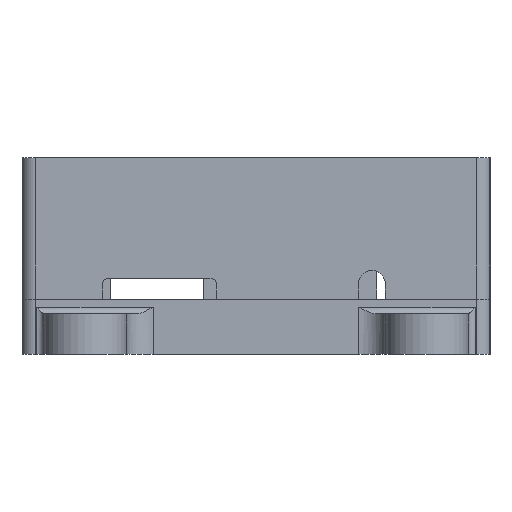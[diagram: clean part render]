
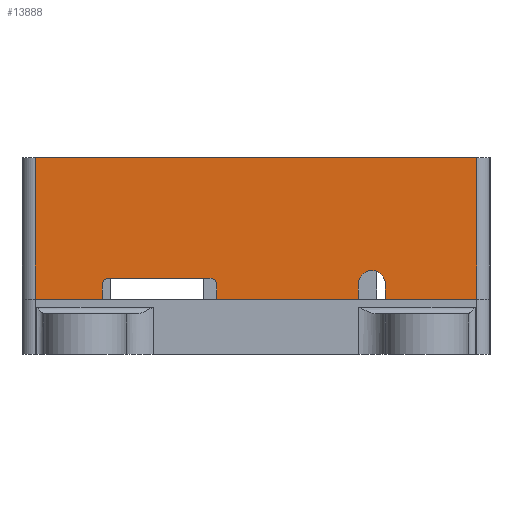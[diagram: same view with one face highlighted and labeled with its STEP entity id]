
A CAD part, left-side view. The second image highlights one B-rep face of the part: STEP entity #13888.
In plain terms, the highlighted planar face has unit normal (-1, 0, 0).
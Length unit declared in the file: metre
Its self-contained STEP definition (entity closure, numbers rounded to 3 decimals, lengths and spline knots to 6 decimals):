
#465=PLANE('',#15087);
#1423=LINE('',#21389,#2910);
#1426=LINE('',#21402,#2913);
#1825=LINE('',#22801,#3312);
#1830=LINE('',#22814,#3317);
#1831=LINE('',#22816,#3318);
#1838=LINE('',#22835,#3325);
#1841=LINE('',#22841,#3328);
#1919=LINE('',#23059,#3406);
#1920=LINE('',#23060,#3407);
#1921=LINE('',#23061,#3408);
#1922=LINE('',#23062,#3409);
#2910=VECTOR('',#17169,1.);
#2913=VECTOR('',#17180,1.);
#3312=VECTOR('',#18627,1.);
#3317=VECTOR('',#18640,1.);
#3318=VECTOR('',#18643,1.);
#3325=VECTOR('',#18658,1.);
#3328=VECTOR('',#18663,1.);
#3406=VECTOR('',#18849,1.);
#3407=VECTOR('',#18850,1.);
#3408=VECTOR('',#18851,1.);
#3409=VECTOR('',#18852,1.);
#6581=ORIENTED_EDGE('',*,*,#9395,.F.);
#6582=ORIENTED_EDGE('',*,*,#8578,.T.);
#6583=ORIENTED_EDGE('',*,*,#9396,.T.);
#6584=ORIENTED_EDGE('',*,*,#9281,.T.);
#6585=ORIENTED_EDGE('',*,*,#9270,.F.);
#6586=ORIENTED_EDGE('',*,*,#9273,.T.);
#6587=ORIENTED_EDGE('',*,*,#9277,.F.);
#6588=ORIENTED_EDGE('',*,*,#9280,.F.);
#6589=ORIENTED_EDGE('',*,*,#9397,.T.);
#6590=ORIENTED_EDGE('',*,*,#9293,.T.);
#6591=ORIENTED_EDGE('',*,*,#9287,.T.);
#6592=ORIENTED_EDGE('',*,*,#9290,.T.);
#6593=ORIENTED_EDGE('',*,*,#9398,.T.);
#6594=ORIENTED_EDGE('',*,*,#8572,.F.);
#8572=EDGE_CURVE('',#10211,#10213,#1423,.T.);
#8578=EDGE_CURVE('',#10216,#10218,#1426,.T.);
#9270=EDGE_CURVE('',#10691,#10692,#11254,.T.);
#9273=EDGE_CURVE('',#10691,#10694,#1825,.T.);
#9277=EDGE_CURVE('',#10696,#10694,#11256,.T.);
#9280=EDGE_CURVE('',#10698,#10696,#1830,.T.);
#9281=EDGE_CURVE('',#10699,#10692,#1831,.T.);
#9287=EDGE_CURVE('',#10701,#10704,#11258,.T.);
#9290=EDGE_CURVE('',#10704,#10706,#1838,.T.);
#9293=EDGE_CURVE('',#10707,#10701,#1841,.T.);
#9395=EDGE_CURVE('',#10216,#10211,#1919,.T.);
#9396=EDGE_CURVE('',#10218,#10699,#1920,.T.);
#9397=EDGE_CURVE('',#10698,#10707,#1921,.T.);
#9398=EDGE_CURVE('',#10706,#10213,#1922,.T.);
#10211=VERTEX_POINT('',#21387);
#10213=VERTEX_POINT('',#21390);
#10216=VERTEX_POINT('',#21397);
#10218=VERTEX_POINT('',#21401);
#10691=VERTEX_POINT('',#22793);
#10692=VERTEX_POINT('',#22795);
#10694=VERTEX_POINT('',#22800);
#10696=VERTEX_POINT('',#22807);
#10698=VERTEX_POINT('',#22813);
#10699=VERTEX_POINT('',#22817);
#10701=VERTEX_POINT('',#22823);
#10704=VERTEX_POINT('',#22828);
#10706=VERTEX_POINT('',#22834);
#10707=VERTEX_POINT('',#22838);
#11254=CIRCLE('',#15022,0.001);
#11256=CIRCLE('',#15026,0.001);
#11258=CIRCLE('',#15031,0.002);
#12010=EDGE_LOOP('',(#6581,#6582,#6583,#6584,#6585,#6586,#6587,#6588,#6589,
#6590,#6591,#6592,#6593,#6594));
#12843=FACE_BOUND('',#12010,.T.);
#13888=ADVANCED_FACE('',(#12843),#465,.F.);
#15022=AXIS2_PLACEMENT_3D('',#22794,#18621,#18622);
#15026=AXIS2_PLACEMENT_3D('',#22808,#18634,#18635);
#15031=AXIS2_PLACEMENT_3D('',#22829,#18652,#18653);
#15087=AXIS2_PLACEMENT_3D('',#23058,#18847,#18848);
#17169=DIRECTION('',(0.,0.,-1.));
#17180=DIRECTION('',(0.,0.,-1.));
#18621=DIRECTION('',(-1.,0.,0.));
#18622=DIRECTION('',(0.,-1.,0.));
#18627=DIRECTION('',(0.,-1.,0.));
#18634=DIRECTION('',(-1.,0.,0.));
#18635=DIRECTION('',(0.,-1.,0.));
#18640=DIRECTION('',(0.,0.,1.));
#18643=DIRECTION('',(0.,0.,1.));
#18652=DIRECTION('',(1.,0.,0.));
#18653=DIRECTION('',(0.,1.,0.));
#18658=DIRECTION('',(0.,0.,-1.));
#18663=DIRECTION('',(0.,0.,1.));
#18847=DIRECTION('',(1.,0.,0.));
#18848=DIRECTION('',(0.,1.,0.));
#18849=DIRECTION('',(0.,-1.,0.));
#18850=DIRECTION('',(0.,-1.,0.));
#18851=DIRECTION('',(0.,-1.,0.));
#18852=DIRECTION('',(0.,-1.,0.));
#21387=CARTESIAN_POINT('',(-0.0023,-0.0003,0.021));
#21389=CARTESIAN_POINT('',(-0.0023,-0.0003,0.019002));
#21390=CARTESIAN_POINT('',(-0.0023,-0.0003,0.));
#21397=CARTESIAN_POINT('',(-0.0023,0.0652,0.021));
#21401=CARTESIAN_POINT('',(-0.0023,0.0652,0.));
#21402=CARTESIAN_POINT('',(-0.0023,0.0652,0.));
#22793=CARTESIAN_POINT('',(-0.0023,0.0543,0.0031));
#22794=CARTESIAN_POINT('',(-0.0023,0.0543,0.0021));
#22795=CARTESIAN_POINT('',(-0.0023,0.0553,0.0021));
#22800=CARTESIAN_POINT('',(-0.0023,0.0393,0.0031));
#22801=CARTESIAN_POINT('',(-0.0023,0.0468,0.0031));
#22807=CARTESIAN_POINT('',(-0.0023,0.0383,0.0021));
#22808=CARTESIAN_POINT('',(-0.0023,0.0393,0.0021));
#22813=CARTESIAN_POINT('',(-0.0023,0.0383,0.));
#22814=CARTESIAN_POINT('',(-0.0023,0.0383,0.00105));
#22816=CARTESIAN_POINT('',(-0.0023,0.0553,0.00105));
#22817=CARTESIAN_POINT('',(-0.0023,0.0553,0.));
#22823=CARTESIAN_POINT('',(-0.0023,0.01725,0.00225));
#22828=CARTESIAN_POINT('',(-0.0023,0.01325,0.00225));
#22829=CARTESIAN_POINT('',(-0.0023,0.01525,0.00225));
#22834=CARTESIAN_POINT('',(-0.0023,0.01325,0.));
#22835=CARTESIAN_POINT('',(-0.0023,0.01325,0.019002));
#22838=CARTESIAN_POINT('',(-0.0023,0.01725,0.));
#22841=CARTESIAN_POINT('',(-0.0023,0.01725,0.019002));
#23058=CARTESIAN_POINT('',(-0.0023,-0.0003,0.));
#23059=CARTESIAN_POINT('',(-0.0023,0.03245,0.021));
#23060=CARTESIAN_POINT('',(-0.0023,0.03245,0.));
#23061=CARTESIAN_POINT('',(-0.0023,0.03245,0.));
#23062=CARTESIAN_POINT('',(-0.0023,0.03245,0.));
